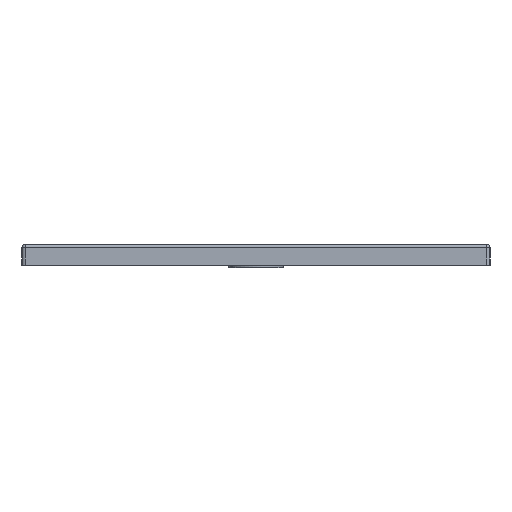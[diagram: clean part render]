
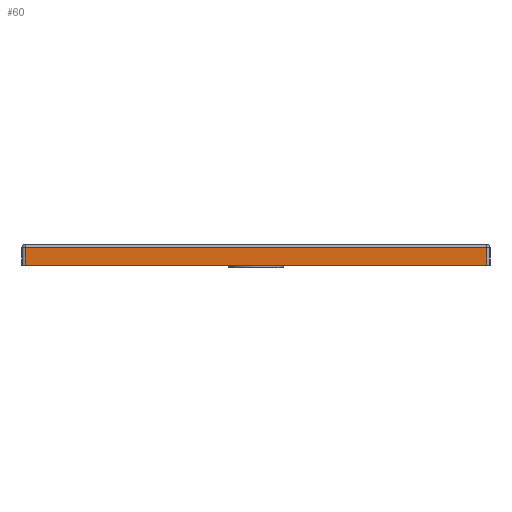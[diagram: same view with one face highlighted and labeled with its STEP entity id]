
A CAD part, left-side view. The second image highlights one B-rep face of the part: STEP entity #60.
In plain terms, the highlighted free-form (B-spline) face has degree [1, 1] with [2, 2] control points.
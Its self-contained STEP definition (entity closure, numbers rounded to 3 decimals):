
#60=ADVANCED_FACE('',(#101),#1194,.T.);
#101=FACE_OUTER_BOUND('',#145,.T.);
#145=EDGE_LOOP('',(#282,#283,#284,#285));
#282=ORIENTED_EDGE('',*,*,#1030,.F.);
#283=ORIENTED_EDGE('',*,*,#1032,.T.);
#284=ORIENTED_EDGE('',*,*,#1008,.F.);
#285=ORIENTED_EDGE('',*,*,#1021,.F.);
#419=B_SPLINE_CURVE_WITH_KNOTS('',1,(#3782,#3783),.UNSPECIFIED.,.F.,.F.,
(2,2),(-38.,0.),.UNSPECIFIED.);
#420=B_SPLINE_CURVE_WITH_KNOTS('',1,(#3784,#3785),.UNSPECIFIED.,.F.,.F.,
(2,2),(-38.,0.),.UNSPECIFIED.);
#443=B_SPLINE_CURVE_WITH_KNOTS('',1,(#3848,#3849),.UNSPECIFIED.,.F.,.F.,
(2,2),(0.,986.),.UNSPECIFIED.);
#444=B_SPLINE_CURVE_WITH_KNOTS('',1,(#3850,#3851),.UNSPECIFIED.,.F.,.F.,
(2,2),(0.,986.),.UNSPECIFIED.);
#467=B_SPLINE_CURVE_WITH_KNOTS('',1,(#3911,#3912),.UNSPECIFIED.,.F.,.F.,
(2,2),(-38.,0.),.UNSPECIFIED.);
#468=B_SPLINE_CURVE_WITH_KNOTS('',1,(#3913,#3914),.UNSPECIFIED.,.F.,.F.,
(2,2),(-38.,0.),.UNSPECIFIED.);
#472=B_SPLINE_CURVE_WITH_KNOTS('',1,(#3924,#3925),.UNSPECIFIED.,.F.,.F.,
(2,2),(-38.,0.),.UNSPECIFIED.);
#473=B_SPLINE_CURVE_WITH_KNOTS('',1,(#3926,#3927),.UNSPECIFIED.,.F.,.F.,
(2,2),(-986.,0.),.UNSPECIFIED.);
#474=B_SPLINE_CURVE_WITH_KNOTS('',1,(#3928,#3929),.UNSPECIFIED.,.F.,.F.,
(2,2),(-986.,0.),.UNSPECIFIED.);
#475=B_SPLINE_CURVE_WITH_KNOTS('',1,(#3930,#3931),.UNSPECIFIED.,.F.,.F.,
(2,2),(-38.,0.),.UNSPECIFIED.);
#476=B_SPLINE_CURVE_WITH_KNOTS('',1,(#3932,#3933),.UNSPECIFIED.,.F.,.F.,
(2,2),(0.,986.),.UNSPECIFIED.);
#615=PCURVE('',#1174,#785);
#632=PCURVE('',#1178,#802);
#652=PCURVE('',#1184,#822);
#656=PCURVE('',#1194,#826);
#657=PCURVE('',#1194,#827);
#658=PCURVE('',#1194,#828);
#659=PCURVE('',#1194,#829);
#785=DEFINITIONAL_REPRESENTATION('',(#420),#4433);
#802=DEFINITIONAL_REPRESENTATION('',(#444),#4433);
#822=DEFINITIONAL_REPRESENTATION('',(#468),#4433);
#826=DEFINITIONAL_REPRESENTATION('',(#472),#4433);
#827=DEFINITIONAL_REPRESENTATION('',(#474),#4433);
#828=DEFINITIONAL_REPRESENTATION('',(#475),#4433);
#829=DEFINITIONAL_REPRESENTATION('',(#476),#4433);
#918=SURFACE_CURVE('',#419,(#615,#658),.PCURVE_S1.);
#931=SURFACE_CURVE('',#443,(#632,#659),.PCURVE_S1.);
#940=SURFACE_CURVE('',#467,(#652,#656),.PCURVE_S1.);
#942=SURFACE_CURVE('',#473,(#657),.PCURVE_S1.);
#1008=EDGE_CURVE('',#1140,#1137,#918,.T.);
#1021=EDGE_CURVE('',#1149,#1140,#931,.T.);
#1030=EDGE_CURVE('',#1150,#1149,#940,.T.);
#1032=EDGE_CURVE('',#1150,#1137,#942,.T.);
#1137=VERTEX_POINT('',#3638);
#1140=VERTEX_POINT('',#3641);
#1149=VERTEX_POINT('',#3650);
#1150=VERTEX_POINT('',#3651);
#1174=(
BOUNDED_SURFACE()
B_SPLINE_SURFACE(2,1,((#1938,#1939),(#1940,#1941),(#1942,#1943),(#1944,
#1945),(#1946,#1947),(#1948,#1949),(#1950,#1951),(#1952,#1953),(#1954,#1955)),
 .UNSPECIFIED.,.T.,.F.,.F.)
B_SPLINE_SURFACE_WITH_KNOTS((3,2,2,2,3),(2,2),(0.,1.571,3.142,
4.712,6.283),(0.,45.72),.UNSPECIFIED.)
GEOMETRIC_REPRESENTATION_ITEM()
RATIONAL_B_SPLINE_SURFACE(((1.,1.),(0.707,0.707),
(1.,1.),(0.707,0.707),(1.,1.),(0.707,
0.707),(1.,1.),(0.707,0.707),(1.,1.)))
REPRESENTATION_ITEM('')
SURFACE()
);
#1178=(
BOUNDED_SURFACE()
B_SPLINE_SURFACE(2,1,((#2068,#2069),(#2070,#2071),(#2072,#2073),(#2074,
#2075),(#2076,#2077),(#2078,#2079),(#2080,#2081),(#2082,#2083),(#2084,#2085)),
 .UNSPECIFIED.,.T.,.F.,.F.)
B_SPLINE_SURFACE_WITH_KNOTS((3,2,2,2,3),(2,2),(0.,1.571,3.142,
4.712,6.283),(0.,1183.32),.UNSPECIFIED.)
GEOMETRIC_REPRESENTATION_ITEM()
RATIONAL_B_SPLINE_SURFACE(((1.,1.),(0.707,0.707),
(1.,1.),(0.707,0.707),(1.,1.),(0.707,
0.707),(1.,1.),(0.707,0.707),(1.,1.)))
REPRESENTATION_ITEM('')
SURFACE()
);
#1184=(
BOUNDED_SURFACE()
B_SPLINE_SURFACE(2,1,((#2230,#2231),(#2232,#2233),(#2234,#2235),(#2236,
#2237),(#2238,#2239),(#2240,#2241),(#2242,#2243),(#2244,#2245),(#2246,#2247)),
 .UNSPECIFIED.,.T.,.F.,.F.)
B_SPLINE_SURFACE_WITH_KNOTS((3,2,2,2,3),(2,2),(0.,1.571,3.142,
4.712,6.283),(0.,45.72),.UNSPECIFIED.)
GEOMETRIC_REPRESENTATION_ITEM()
RATIONAL_B_SPLINE_SURFACE(((1.,1.),(0.707,0.707),
(1.,1.),(0.707,0.707),(1.,1.),(0.707,
0.707),(1.,1.),(0.707,0.707),(1.,1.)))
REPRESENTATION_ITEM('')
SURFACE()
);
#1194=B_SPLINE_SURFACE_WITH_KNOTS('',1,1,((#2248,#2249),(#2250,#2251)),
 .UNSPECIFIED.,.F.,.F.,.F.,(2,2),(2,2),(3.14,48.86),(-91.66,1091.66),
 .UNSPECIFIED.);
#1938=CARTESIAN_POINT('',(-686.,-493.,-48.86));
#1939=CARTESIAN_POINT('',(-686.,-493.,-3.14));
#1940=CARTESIAN_POINT('',(-686.,-486.,-48.86));
#1941=CARTESIAN_POINT('',(-686.,-486.,-3.14));
#1942=CARTESIAN_POINT('',(-693.,-486.,-48.86));
#1943=CARTESIAN_POINT('',(-693.,-486.,-3.14));
#1944=CARTESIAN_POINT('',(-700.,-486.,-48.86));
#1945=CARTESIAN_POINT('',(-700.,-486.,-3.14));
#1946=CARTESIAN_POINT('',(-700.,-493.,-48.86));
#1947=CARTESIAN_POINT('',(-700.,-493.,-3.14));
#1948=CARTESIAN_POINT('',(-700.,-500.,-48.86));
#1949=CARTESIAN_POINT('',(-700.,-500.,-3.14));
#1950=CARTESIAN_POINT('',(-693.,-500.,-48.86));
#1951=CARTESIAN_POINT('',(-693.,-500.,-3.14));
#1952=CARTESIAN_POINT('',(-686.,-500.,-48.86));
#1953=CARTESIAN_POINT('',(-686.,-500.,-3.14));
#1954=CARTESIAN_POINT('',(-686.,-493.,-48.86));
#1955=CARTESIAN_POINT('',(-686.,-493.,-3.14));
#2068=CARTESIAN_POINT('',(-686.,591.66,-7.));
#2069=CARTESIAN_POINT('',(-686.,-591.66,-7.));
#2070=CARTESIAN_POINT('',(-686.,591.66,0.));
#2071=CARTESIAN_POINT('',(-686.,-591.66,0.));
#2072=CARTESIAN_POINT('',(-693.,591.66,0.));
#2073=CARTESIAN_POINT('',(-693.,-591.66,0.));
#2074=CARTESIAN_POINT('',(-700.,591.66,0.));
#2075=CARTESIAN_POINT('',(-700.,-591.66,0.));
#2076=CARTESIAN_POINT('',(-700.,591.66,-7.));
#2077=CARTESIAN_POINT('',(-700.,-591.66,-7.));
#2078=CARTESIAN_POINT('',(-700.,591.66,-14.));
#2079=CARTESIAN_POINT('',(-700.,-591.66,-14.));
#2080=CARTESIAN_POINT('',(-693.,591.66,-14.));
#2081=CARTESIAN_POINT('',(-693.,-591.66,-14.));
#2082=CARTESIAN_POINT('',(-686.,591.66,-14.));
#2083=CARTESIAN_POINT('',(-686.,-591.66,-14.));
#2084=CARTESIAN_POINT('',(-686.,591.66,-7.));
#2085=CARTESIAN_POINT('',(-686.,-591.66,-7.));
#2230=CARTESIAN_POINT('',(-686.,493.,-3.14));
#2231=CARTESIAN_POINT('',(-686.,493.,-48.86));
#2232=CARTESIAN_POINT('',(-686.,486.,-3.14));
#2233=CARTESIAN_POINT('',(-686.,486.,-48.86));
#2234=CARTESIAN_POINT('',(-693.,486.,-3.14));
#2235=CARTESIAN_POINT('',(-693.,486.,-48.86));
#2236=CARTESIAN_POINT('',(-700.,486.,-3.14));
#2237=CARTESIAN_POINT('',(-700.,486.,-48.86));
#2238=CARTESIAN_POINT('',(-700.,493.,-3.14));
#2239=CARTESIAN_POINT('',(-700.,493.,-48.86));
#2240=CARTESIAN_POINT('',(-700.,500.,-3.14));
#2241=CARTESIAN_POINT('',(-700.,500.,-48.86));
#2242=CARTESIAN_POINT('',(-693.,500.,-3.14));
#2243=CARTESIAN_POINT('',(-693.,500.,-48.86));
#2244=CARTESIAN_POINT('',(-686.,500.,-3.14));
#2245=CARTESIAN_POINT('',(-686.,500.,-48.86));
#2246=CARTESIAN_POINT('',(-686.,493.,-3.14));
#2247=CARTESIAN_POINT('',(-686.,493.,-48.86));
#2248=CARTESIAN_POINT('',(-700.,591.66,-3.14));
#2249=CARTESIAN_POINT('',(-700.,-591.66,-3.14));
#2250=CARTESIAN_POINT('',(-700.,591.66,-48.86));
#2251=CARTESIAN_POINT('',(-700.,-591.66,-48.86));
#3638=CARTESIAN_POINT('',(-700.,-493.,-45.));
#3641=CARTESIAN_POINT('',(-700.,-493.,-7.));
#3650=CARTESIAN_POINT('',(-700.,493.,-7.));
#3651=CARTESIAN_POINT('',(-700.,493.,-45.));
#3782=CARTESIAN_POINT('',(-700.,-493.,-7.));
#3783=CARTESIAN_POINT('',(-700.,-493.,-45.));
#3784=CARTESIAN_POINT('',(3.142,41.86));
#3785=CARTESIAN_POINT('',(3.142,3.86));
#3848=CARTESIAN_POINT('',(-700.,493.,-7.));
#3849=CARTESIAN_POINT('',(-700.,-493.,-7.));
#3850=CARTESIAN_POINT('',(3.142,98.66));
#3851=CARTESIAN_POINT('',(3.142,1084.66));
#3911=CARTESIAN_POINT('',(-700.,493.,-45.));
#3912=CARTESIAN_POINT('',(-700.,493.,-7.));
#3913=CARTESIAN_POINT('',(3.142,41.86));
#3914=CARTESIAN_POINT('',(3.142,3.86));
#3924=CARTESIAN_POINT('',(45.,7.));
#3925=CARTESIAN_POINT('',(7.,7.));
#3926=CARTESIAN_POINT('',(-700.,493.,-45.));
#3927=CARTESIAN_POINT('',(-700.,-493.,-45.));
#3928=CARTESIAN_POINT('',(45.,7.));
#3929=CARTESIAN_POINT('',(45.,993.));
#3930=CARTESIAN_POINT('',(7.,993.));
#3931=CARTESIAN_POINT('',(45.,993.));
#3932=CARTESIAN_POINT('',(7.,7.));
#3933=CARTESIAN_POINT('',(7.,993.));
#4433=(
GEOMETRIC_REPRESENTATION_CONTEXT(2)
PARAMETRIC_REPRESENTATION_CONTEXT()
REPRESENTATION_CONTEXT('pspace','')
);
